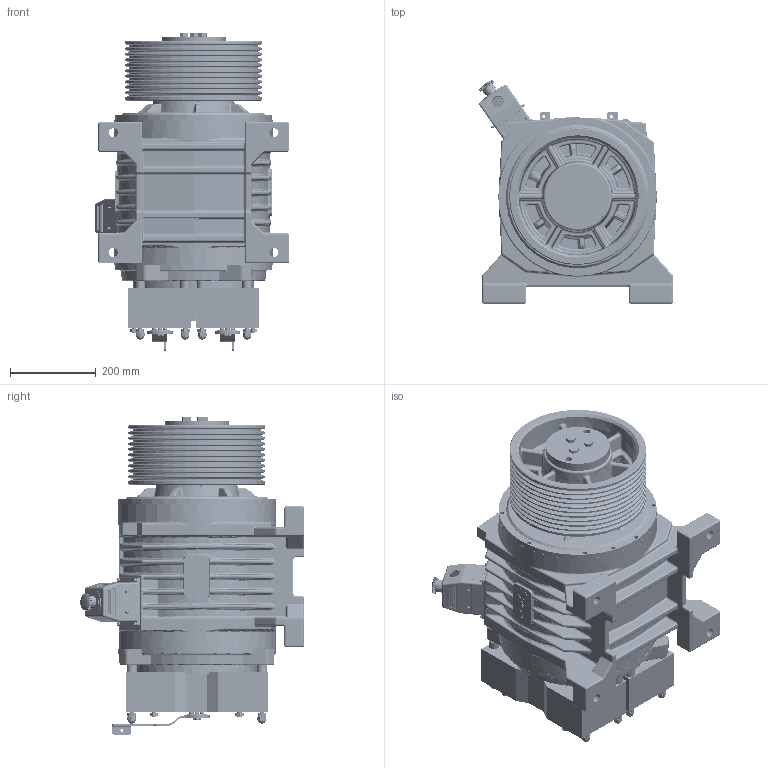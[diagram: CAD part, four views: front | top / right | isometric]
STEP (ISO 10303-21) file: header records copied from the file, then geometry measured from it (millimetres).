
FILE_DESCRIPTION (( 'STEP AP214' ), '1' );
FILE_NAME ('QS532160160.STEP', '2024-07-16T11:17:51', ( '' ), ( '' ), 'SwSTEP 2.0', 'SolidWorks 2023', '' );
FILE_SCHEMA (( 'AUTOMOTIVE_DESIGN' ));
Length unit declared in the file: millimetre
Products named in the file (1): QS532160160
Bounding box: 453.35 x 522.44 x 741.79 mm (x, y, z)
Surface area: 5981073.2 mm2 (no closed solid volume)
Topology: 0 solids, 136 shells, 7339 faces, 18279 edges, 10956 vertices
Faces by surface type: cylinder 2372, plane 2246, bspline 1049, cone 697, torus 492, sphere 483
Entity records: 258737 total; most frequent: CARTESIAN_POINT 94058, ORIENTED_EDGE 35300, DIRECTION 32807, EDGE_CURVE 17729, AXIS2_PLACEMENT_3D 13056, VERTEX_POINT 10921, EDGE_LOOP 7880, ADVANCED_FACE 7339
